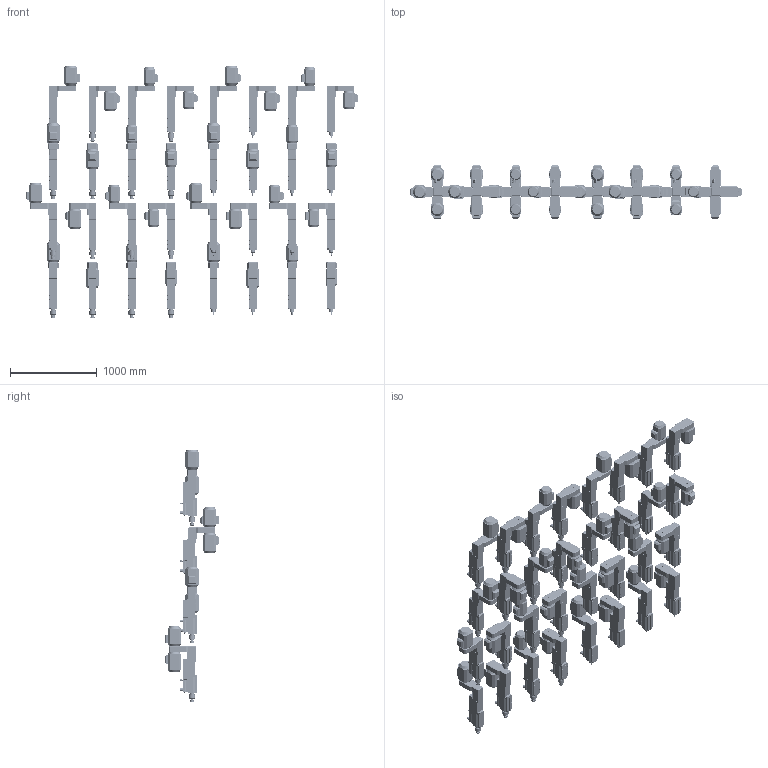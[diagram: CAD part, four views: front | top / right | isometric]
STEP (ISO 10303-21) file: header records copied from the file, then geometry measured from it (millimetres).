
FILE_DESCRIPTION (( 'STEP AP203' ), '1' );
FILE_NAME ('BE481-482-485 JT2 and ER32 - all configurations.STEP', '2009-10-14T07:47:54', ( 'HP' ), ( '' ), 'SwSTEP 2.0', 'SolidWorks 2008', '' );
FILE_SCHEMA (( 'CONFIG_CONTROL_DESIGN' ));
Length unit declared in the file: millimetre
Products named in the file (42): BE485 JT2 (F 90gr)_STD; BE481-482 JT2 (F 180gr)_STD; BE481-482 JT2 (F 270gr)_STD; BE485 JT2 (F 0gr)_STD; BE485 JT2 (F 180gr)_STD; BE485 JT2 (B 270gr)_STD; J2-spindel; BE481-482 ER32 (F 90gr)_STD; BE485 ER32 (F 270gr)_STD; BE481-482 ER32 (F 180gr)_STD; BE481-482 ER32 (B 270gr)_STD; 71-motor; Grundenhet (främre del); Matningskontroll; Nivåpinne; BE481-482-485 JT2 and ER32 - all configurations; BE481-482 JT2 (F 0gr)_STD; BE481-482 JT2 (F 90gr)_STD; BE481-482 JT2 (B 0gr)_STD; BE481-482 JT2 (B 90gr)_STD; BE481-482 JT2 (B 180gr)_STD; BE481-482 JT2 (B 270gr)_STD; BE485 JT2 (F 270gr)_STD; BE485 JT2 (B 0gr)_STD; BE485 JT2 (B 90gr)_STD; BE485 JT2 (B 180gr)_STD; BE481-482 ER32 (F 0gr)_STD; BE485 ER32 (F 0gr)_STD; BE485 ER32 (F 90gr)_STD; BE485 ER32 (F 180gr)_STD; BE481-482 ER32 (F 270gr)_STD; BE481-482 ER32 (B 0gr)_STD; BE481-482 ER32 (B 90gr)_STD; BE481-482 ER32 (B 180gr)_STD; BE485 ER32 (B 0gr)_STD; BE485 ER32 (B 90gr)_STD; BE485 ER32 (B 180gr)_STD; BE485 ER32 (B 270gr)_STD; Grundenhet (bakre del); 400365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
Assembly tree (256 placements, depth 3):
  BE481-482-485 JT2 and ER32 - all configurations
    BE481-482 JT2 (B 180gr)_STD
      J2-spindel
      Grundenhet (främre del)
      Matningskontroll
      400365
      Grundenhet (bakre del)
      Nivåpinne
      71-motor
    BE481-482 JT2 (F 180gr)_STD
      Grundenhet (främre del)
      Nivåpinne
      71-motor
      Grundenhet (bakre del)
      J2-spindel
      400365
      Matningskontroll
    BE485 JT2 (B 180gr)_STD
      Grundenhet (bakre del)
      Matningskontroll
      400365
      Grundenhet (främre del)
      80-motor
      Nivåpinne
      J2-spindel
    BE481-482 JT2 (F 90gr)_STD
      Grundenhet (bakre del)
      J2-spindel
      Nivåpinne
      Grundenhet (främre del)
      Matningskontroll
      71-motor
      400365
    BE481-482 JT2 (F 270gr)_STD
      Nivåpinne
      Grundenhet (bakre del)
      71-motor
      J2-spindel
      Grundenhet (främre del)
      Matningskontroll
      400365
    BE481-482 ER32 (F 0gr)_STD
      71-motor
      Grundenhet (främre del)
      Nivåpinne
      Matningskontroll
      400365
      ER32-spindel
      Grundenhet (bakre del)
    BE481-482 ER32 (B 180gr)_STD
      Nivåpinne
      400365
      ER32-spindel
      71-motor
      Grundenhet (främre del)
      Grundenhet (bakre del)
      Matningskontroll
    BE485 JT2 (B 270gr)_STD
      Grundenhet (bakre del)
      80-motor
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Bounding box: 3829 x 626 x 2914.46 mm (x, y, z)
Volume: 385255813.3 mm3; surface area: 21462221.6 mm2
Topology: 224 solids, 224 shells, 14208 faces, 35968 edges, 22144 vertices
Faces by surface type: plane 7680, cylinder 4064, cone 1472, bspline 704, torus 288
Entity records: 31315 total; most frequent: CARTESIAN_POINT 7451, DIRECTION 3083, ORIENTED_EDGE 2676, EDGE_CURVE 1338, AXIS2_PLACEMENT_3D 1124, VECTOR 835, LINE 835, VERTEX_POINT 834
